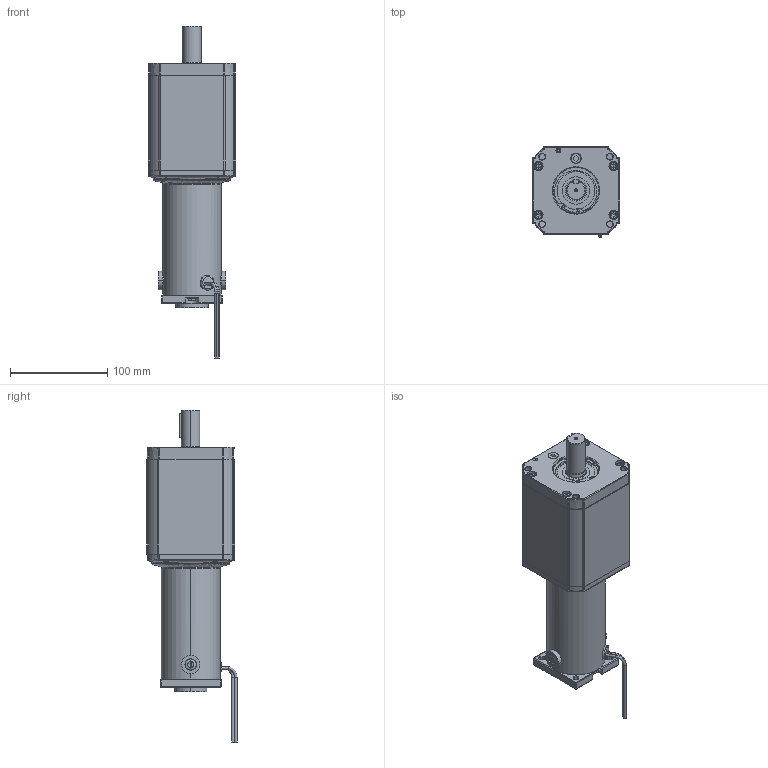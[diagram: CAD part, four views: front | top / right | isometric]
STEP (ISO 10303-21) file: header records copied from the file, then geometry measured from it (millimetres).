
FILE_DESCRIPTION (( 'STEP AP214' ), '1' );
FILE_NAME ('PM6015-PL7300_3S.STEP', '2013-08-23T12:51:34', ( '' ), ( '' ), 'SwSTEP 2.0', 'SolidWorks 2013', '' );
FILE_SCHEMA (( 'AUTOMOTIVE_DESIGN' ));
Length unit declared in the file: inch
Products named in the file (1): PM6015-PL7300_3S
Bounding box: 90.25 x 92.89 x 341.8 mm (x, y, z)
Surface area: 97980.9 mm2 (no closed solid volume)
Topology: 0 solids, 34 shells, 557 faces, 1721 edges, 1144 vertices
Faces by surface type: cylinder 200, plane 163, cone 81, bspline 60, torus 43, sphere 10
Entity records: 28884 total; most frequent: CARTESIAN_POINT 6799, DIRECTION 3261, ORIENTED_EDGE 2771, EDGE_CURVE 1681, AXIS2_PLACEMENT_3D 1277, VERTEX_POINT 1136, CIRCLE 779, LINE 707
